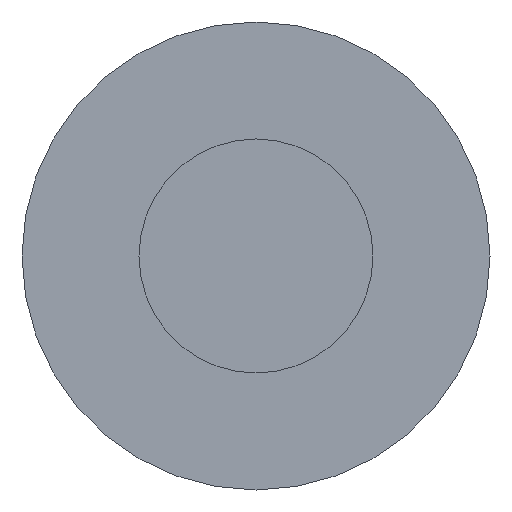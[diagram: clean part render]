
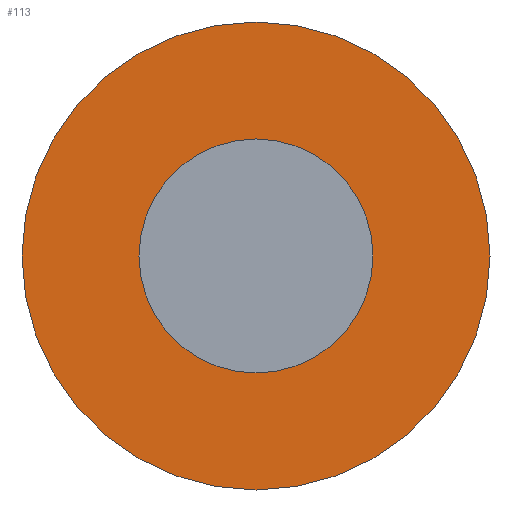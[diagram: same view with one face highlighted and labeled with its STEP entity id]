
A CAD part, front view. The second image highlights one B-rep face of the part: STEP entity #113.
In plain terms, the highlighted planar face has unit normal (0, -1, 0).
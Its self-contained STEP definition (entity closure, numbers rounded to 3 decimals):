
#31 = CYLINDRICAL_SURFACE('',#32,5.);
#32 = AXIS2_PLACEMENT_3D('',#33,#34,#35);
#33 = CARTESIAN_POINT('',(49.029,106.2,-256.171));
#34 = DIRECTION('',(0.,-1.,-0.));
#35 = DIRECTION('',(1.,0.,0.));
#56 = VERTEX_POINT('',#57);
#57 = CARTESIAN_POINT('',(54.029,125.2,-256.171));
#78 = EDGE_CURVE('',#56,#56,#79,.T.);
#79 = SURFACE_CURVE('',#80,(#85,#92),.PCURVE_S1.);
#80 = CIRCLE('',#81,5.);
#81 = AXIS2_PLACEMENT_3D('',#82,#83,#84);
#82 = CARTESIAN_POINT('',(49.029,125.2,-256.171));
#83 = DIRECTION('',(0.,-1.,-0.));
#84 = DIRECTION('',(1.,0.,0.));
#85 = PCURVE('',#31,#86);
#86 = DEFINITIONAL_REPRESENTATION('',(#87),#91);
#87 = LINE('',#88,#89);
#88 = CARTESIAN_POINT('',(-6.283,-19.));
#89 = VECTOR('',#90,1.);
#90 = DIRECTION('',(1.,-0.));
#91 = ( GEOMETRIC_REPRESENTATION_CONTEXT(2) 
PARAMETRIC_REPRESENTATION_CONTEXT() REPRESENTATION_CONTEXT('2D SPACE',''
  ) );
#92 = PCURVE('',#93,#98);
#93 = PLANE('',#94);
#94 = AXIS2_PLACEMENT_3D('',#95,#96,#97);
#95 = CARTESIAN_POINT('',(49.029,125.2,-256.171));
#96 = DIRECTION('',(0.,1.,0.));
#97 = DIRECTION('',(0.,-0.,1.));
#98 = DEFINITIONAL_REPRESENTATION('',(#99),#107);
#99 = ( BOUNDED_CURVE() B_SPLINE_CURVE(2,(#100,#101,#102,#103,#104,#105,
#106),.UNSPECIFIED.,.T.,.F.) B_SPLINE_CURVE_WITH_KNOTS((1,2,2,2,2,1),(
    -2.094,0.,2.094,4.189,6.283,
8.378),.UNSPECIFIED.) CURVE() GEOMETRIC_REPRESENTATION_ITEM() 
RATIONAL_B_SPLINE_CURVE((1.,0.5,1.,0.5,1.,0.5,1.)) REPRESENTATION_ITEM(
  '') );
#100 = CARTESIAN_POINT('',(0.,5.));
#101 = CARTESIAN_POINT('',(8.66,5.));
#102 = CARTESIAN_POINT('',(4.33,-2.5));
#103 = CARTESIAN_POINT('',(0.,-10.));
#104 = CARTESIAN_POINT('',(-4.33,-2.5));
#105 = CARTESIAN_POINT('',(-8.66,5.));
#106 = CARTESIAN_POINT('',(0.,5.));
#107 = ( GEOMETRIC_REPRESENTATION_CONTEXT(2) 
PARAMETRIC_REPRESENTATION_CONTEXT() REPRESENTATION_CONTEXT('2D SPACE',''
  ) );
#113 = ADVANCED_FACE('',(#114,#145),#93,.F.);
#114 = FACE_BOUND('',#115,.F.);
#115 = EDGE_LOOP('',(#116));
#116 = ORIENTED_EDGE('',*,*,#117,.T.);
#117 = EDGE_CURVE('',#118,#118,#120,.T.);
#118 = VERTEX_POINT('',#119);
#119 = CARTESIAN_POINT('',(59.029,125.2,-256.171));
#120 = SURFACE_CURVE('',#121,(#126,#133),.PCURVE_S1.);
#121 = CIRCLE('',#122,10.);
#122 = AXIS2_PLACEMENT_3D('',#123,#124,#125);
#123 = CARTESIAN_POINT('',(49.029,125.2,-256.171));
#124 = DIRECTION('',(-0.,1.,0.));
#125 = DIRECTION('',(1.,0.,0.));
#126 = PCURVE('',#93,#127);
#127 = DEFINITIONAL_REPRESENTATION('',(#128),#132);
#128 = CIRCLE('',#129,10.);
#129 = AXIS2_PLACEMENT_2D('',#130,#131);
#130 = CARTESIAN_POINT('',(0.,0.));
#131 = DIRECTION('',(0.,1.));
#132 = ( GEOMETRIC_REPRESENTATION_CONTEXT(2) 
PARAMETRIC_REPRESENTATION_CONTEXT() REPRESENTATION_CONTEXT('2D SPACE',''
  ) );
#133 = PCURVE('',#134,#139);
#134 = CYLINDRICAL_SURFACE('',#135,10.);
#135 = AXIS2_PLACEMENT_3D('',#136,#137,#138);
#136 = CARTESIAN_POINT('',(49.029,125.2,-256.171));
#137 = DIRECTION('',(0.,-1.,-0.));
#138 = DIRECTION('',(1.,0.,0.));
#139 = DEFINITIONAL_REPRESENTATION('',(#140),#144);
#140 = LINE('',#141,#142);
#141 = CARTESIAN_POINT('',(-0.,0.));
#142 = VECTOR('',#143,1.);
#143 = DIRECTION('',(-1.,0.));
#144 = ( GEOMETRIC_REPRESENTATION_CONTEXT(2) 
PARAMETRIC_REPRESENTATION_CONTEXT() REPRESENTATION_CONTEXT('2D SPACE',''
  ) );
#145 = FACE_BOUND('',#146,.F.);
#146 = EDGE_LOOP('',(#147));
#147 = ORIENTED_EDGE('',*,*,#78,.T.);
